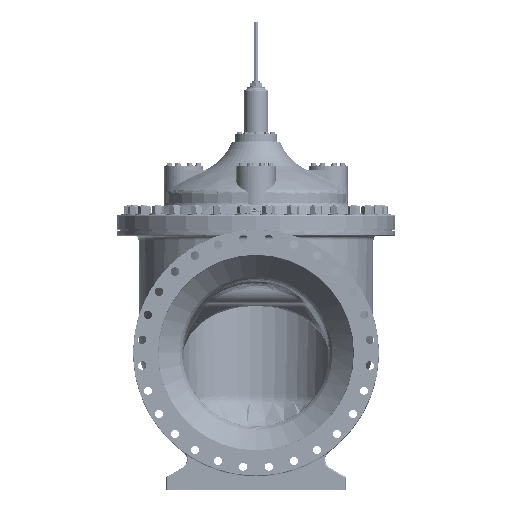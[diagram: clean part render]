
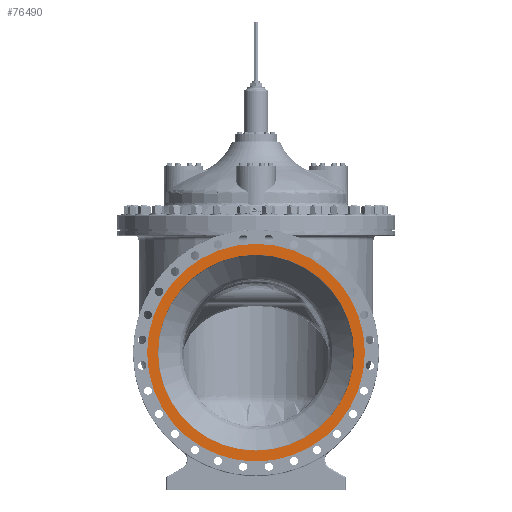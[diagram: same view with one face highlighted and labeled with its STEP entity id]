
A CAD part, top view. The second image highlights one B-rep face of the part: STEP entity #76490.
In plain terms, the highlighted planar face has unit normal (0, 0, 1).
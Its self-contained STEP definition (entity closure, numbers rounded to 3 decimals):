
#9068=FACE_BOUND('',#15092,.T.);
#9950=FACE_OUTER_BOUND('',#15091,.T.);
#15091=EDGE_LOOP('',(#51535));
#15092=EDGE_LOOP('',(#51536));
#20193=CIRCLE('',#81264,500.38);
#20648=CIRCLE('',#81964,556.);
#29080=VERTEX_POINT('',#120006);
#29610=VERTEX_POINT('',#176314);
#37064=EDGE_CURVE('',#29080,#29080,#20193,.T.);
#37976=EDGE_CURVE('',#29610,#29610,#20648,.T.);
#51535=ORIENTED_EDGE('',*,*,#37976,.T.);
#51536=ORIENTED_EDGE('',*,*,#37064,.F.);
#74294=PLANE('',#81963);
#76490=ADVANCED_FACE('',(#9950,#9068),#74294,.T.);
#81264=AXIS2_PLACEMENT_3D('',#120008,#92749,#92750);
#81963=AXIS2_PLACEMENT_3D('',#176313,#94269,#94270);
#81964=AXIS2_PLACEMENT_3D('',#176315,#94271,#94272);
#92749=DIRECTION('center_axis',(0.,0.,
1.));
#92750=DIRECTION('ref_axis',(1.,0.,0.));
#94269=DIRECTION('center_axis',(0.,0.,
1.));
#94270=DIRECTION('ref_axis',(1.,0.,0.));
#94271=DIRECTION('center_axis',(0.,0.,
1.));
#94272=DIRECTION('ref_axis',(1.,0.,0.));
#120006=CARTESIAN_POINT('',(-500.38,-630.255,850.011));
#120008=CARTESIAN_POINT('Origin',(0.,-630.255,850.011));
#176313=CARTESIAN_POINT('Origin',(0.,-74.255,
850.011));
#176314=CARTESIAN_POINT('',(-556.,-630.255,850.011));
#176315=CARTESIAN_POINT('Origin',(0.,-630.255,850.011));
